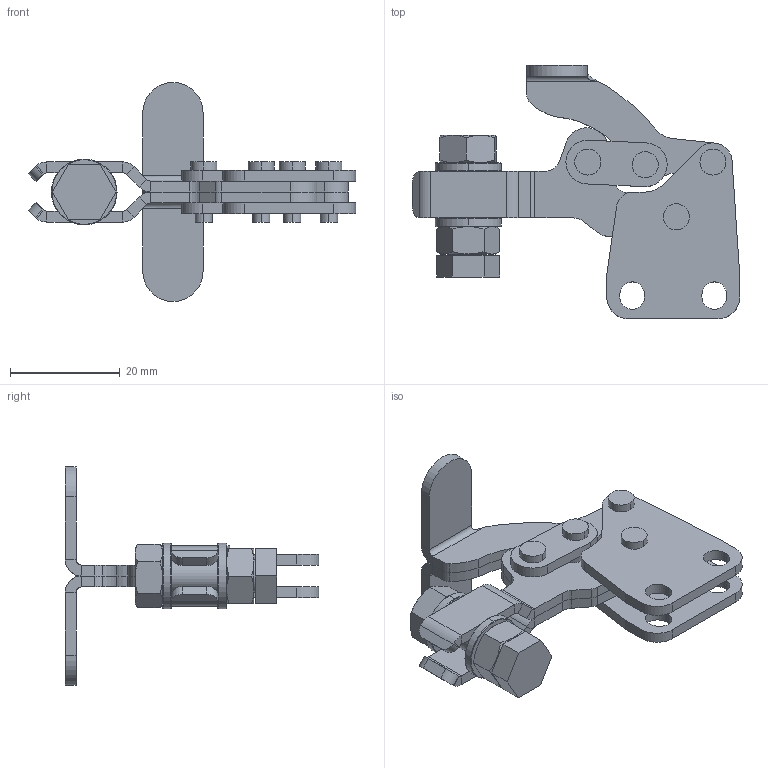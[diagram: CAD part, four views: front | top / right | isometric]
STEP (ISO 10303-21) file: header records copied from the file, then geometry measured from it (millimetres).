
FILE_DESCRIPTION (( 'STEP AP203' ), '1' );
FILE_NAME ('KF-102 R.STEP', '2017-09-14T17:20:34', ( 'Ricardo' ), ( '' ), 'SwSTEP 2.0', 'SolidWorks 2015', '' );
FILE_SCHEMA (( 'CONFIG_CONTROL_DESIGN' ));
Length unit declared in the file: millimetre
Products named in the file (11): 11.50001; 17.50001; 02.11030; KF-102 R; 03.13014_Direita; 03.13014_Esquerda; 01.10033_Direita; 01.10033_Esquerda; 08.10026; 06.50022; 12.50006
Assembly tree (17 placements, depth 2):
  KF-102 R
    02.11030  x2
    03.13014_Direita
    03.13014_Esquerda
    01.10033_Direita
    01.10033_Esquerda
    08.10026  x2
    06.50022  x4
    12.50006
    11.50001  x2
    17.50001  x2
Bounding box: 59.8 x 46.33 x 39.99 mm (x, y, z)
Volume: 8971.1 mm3; surface area: 11333.1 mm2
Topology: 17 solids, 17 shells, 353 faces, 828 edges, 514 vertices
Faces by surface type: plane 151, cylinder 144, cone 50, bspline 8
Entity records: 8963 total; most frequent: CARTESIAN_POINT 1520, DIRECTION 1334, ORIENTED_EDGE 1224, EDGE_CURVE 612, AXIS2_PLACEMENT_3D 508, VERTEX_POINT 378, LINE 318, VECTOR 318
